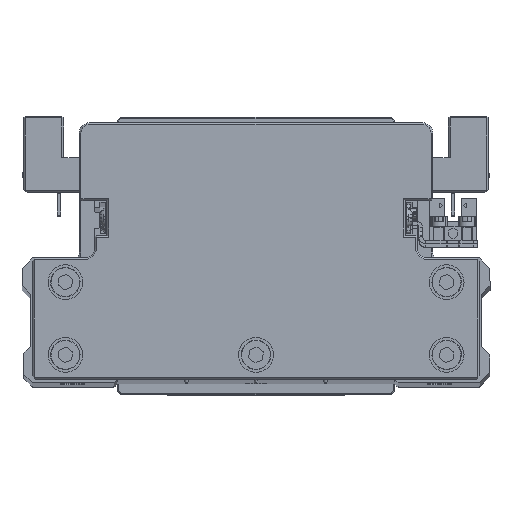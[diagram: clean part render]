
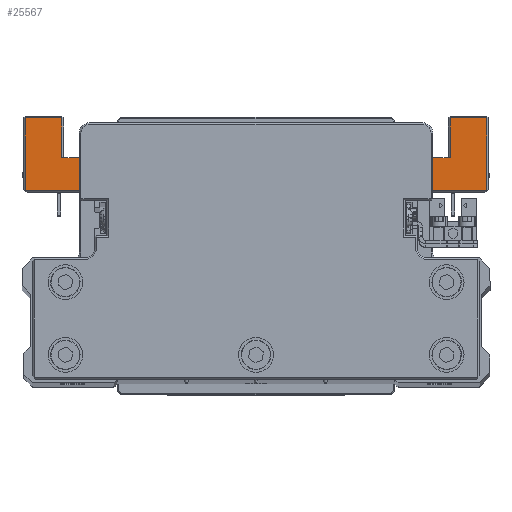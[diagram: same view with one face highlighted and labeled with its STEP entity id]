
A CAD part, top view. The second image highlights one B-rep face of the part: STEP entity #25567.
In plain terms, the highlighted planar face has unit normal (0, 0, 1) as drawn and (0, -1, 0) by its records, which use the part's own axes.
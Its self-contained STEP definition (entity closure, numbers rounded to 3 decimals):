
#4 = ORIENTED_EDGE ( 'NONE', *, *, #6267, .T. ) ;
#230 = DIRECTION ( 'NONE',  ( -1., 0., 0. ) ) ;
#551 = LINE ( 'NONE', #12975, #1478 ) ;
#621 = VERTEX_POINT ( 'NONE', #4445 ) ;
#936 = VECTOR ( 'NONE', #15788, 1000. ) ;
#1387 = VERTEX_POINT ( 'NONE', #25655 ) ;
#1478 = VECTOR ( 'NONE', #25362, 1000. ) ;
#1688 = LINE ( 'NONE', #14103, #29400 ) ;
#2022 = CARTESIAN_POINT ( 'NONE',  ( 40.066, -45., -43. ) ) ;
#2106 = LINE ( 'NONE', #14526, #4726 ) ;
#3221 = ORIENTED_EDGE ( 'NONE', *, *, #24517, .T. ) ;
#3362 = CARTESIAN_POINT ( 'NONE',  ( -55.5, -45., -64. ) ) ;
#4234 = ORIENTED_EDGE ( 'NONE', *, *, #11044, .T. ) ;
#4445 = CARTESIAN_POINT ( 'NONE',  ( 56., -45., -52.5 ) ) ;
#4621 = DIRECTION ( 'NONE',  ( 0., 0., -1. ) ) ;
#4726 = VECTOR ( 'NONE', #26925, 1000. ) ;
#5712 = VERTEX_POINT ( 'NONE', #7754 ) ;
#5956 = EDGE_CURVE ( 'NONE', #25878, #19091, #12401, .T. ) ;
#6267 = EDGE_CURVE ( 'NONE', #5712, #31681, #8110, .T. ) ;
#6564 = DIRECTION ( 'NONE',  ( 0., 0., -1. ) ) ;
#6603 = DIRECTION ( 'NONE',  ( 0., 0., 1. ) ) ;
#7169 = LINE ( 'NONE', #19586, #28403 ) ;
#7283 = VECTOR ( 'NONE', #35590, 1000. ) ;
#7305 = CARTESIAN_POINT ( 'NONE',  ( 40.066, -45., -43. ) ) ;
#7663 = CARTESIAN_POINT ( 'NONE',  ( 67., -45., -64. ) ) ;
#7738 = ORIENTED_EDGE ( 'NONE', *, *, #14162, .F. ) ;
#7754 = CARTESIAN_POINT ( 'NONE',  ( -66.5, -45., -43. ) ) ;
#8110 = LINE ( 'NONE', #20537, #25954 ) ;
#8908 = DIRECTION ( 'NONE',  ( 0., 0., -1. ) ) ;
#9063 = EDGE_CURVE ( 'NONE', #26519, #1387, #551, .T. ) ;
#9219 = VECTOR ( 'NONE', #6603, 1000. ) ;
#9563 = VECTOR ( 'NONE', #6564, 1000. ) ;
#9773 = ORIENTED_EDGE ( 'NONE', *, *, #12141, .F. ) ;
#9975 = ORIENTED_EDGE ( 'NONE', *, *, #9063, .T. ) ;
#10073 = CARTESIAN_POINT ( 'NONE',  ( -77.786, -45., -42.5 ) ) ;
#10697 = EDGE_LOOP ( 'NONE', ( #31643, #14837, #26114, #4234, #4, #22827, #29856, #39708, #9773, #39947, #24893, #7738, #25302, #35503, #3221, #26913, #20508, #9975 ) ) ;
#10785 = LINE ( 'NONE', #23198, #7283 ) ;
#11044 = EDGE_CURVE ( 'NONE', #34075, #5712, #14324, .T. ) ;
#11271 = DIRECTION ( 'NONE',  ( 0., 0., -1. ) ) ;
#11973 = PLANE ( 'NONE',  #34548 ) ;
#12041 = VERTEX_POINT ( 'NONE', #27581 ) ;
#12141 = EDGE_CURVE ( 'NONE', #32732, #36751, #22073, .T. ) ;
#12401 = LINE ( 'NONE', #24792, #23356 ) ;
#12529 = AXIS2_PLACEMENT_3D ( 'NONE', #13889, #26293, #38709 ) ;
#12659 = VECTOR ( 'NONE', #39139, 1000. ) ;
#12703 = EDGE_CURVE ( 'NONE', #32732, #39834, #1688, .T. ) ;
#12933 = CARTESIAN_POINT ( 'NONE',  ( -40.066, -45., -43. ) ) ;
#12975 = CARTESIAN_POINT ( 'NONE',  ( 25.802, -45., -41.111 ) ) ;
#13038 = VECTOR ( 'NONE', #230, 1000. ) ;
#13071 = CARTESIAN_POINT ( 'NONE',  ( -46., -45., -54. ) ) ;
#13889 = CARTESIAN_POINT ( 'NONE',  ( -40.066, -45., -41.5 ) ) ;
#13917 = CARTESIAN_POINT ( 'NONE',  ( -39.868, -45., -42.987 ) ) ;
#14103 = CARTESIAN_POINT ( 'NONE',  ( 46., -45., -54. ) ) ;
#14162 = EDGE_CURVE ( 'NONE', #621, #35712, #15701, .T. ) ;
#14324 = LINE ( 'NONE', #26721, #12659 ) ;
#14418 = CARTESIAN_POINT ( 'NONE',  ( 66.5, -45., -43. ) ) ;
#14526 = CARTESIAN_POINT ( 'NONE',  ( 66.5, -45., -43.5 ) ) ;
#14837 = ORIENTED_EDGE ( 'NONE', *, *, #38820, .T. ) ;
#15223 = CIRCLE ( 'NONE', #37949, 1.5 ) ;
#15701 = LINE ( 'NONE', #28086, #13038 ) ;
#15788 = DIRECTION ( 'NONE',  ( 1., 0., 0. ) ) ;
#19091 = VERTEX_POINT ( 'NONE', #22246 ) ;
#19586 = CARTESIAN_POINT ( 'NONE',  ( -39.868, -45., -42.987 ) ) ;
#19732 = DIRECTION ( 'NONE',  ( -1., 0., 0. ) ) ;
#20085 = DIRECTION ( 'NONE',  ( 1., 0., 0. ) ) ;
#20096 = CARTESIAN_POINT ( 'NONE',  ( 40.066, -45., -41.5 ) ) ;
#20508 = ORIENTED_EDGE ( 'NONE', *, *, #35453, .T. ) ;
#20517 = VERTEX_POINT ( 'NONE', #13917 ) ;
#20537 = CARTESIAN_POINT ( 'NONE',  ( -66.5, -45., -64.5 ) ) ;
#21026 = CARTESIAN_POINT ( 'NONE',  ( -56., -45., -64. ) ) ;
#22041 = LINE ( 'NONE', #34433, #9563 ) ;
#22073 = LINE ( 'NONE', #34467, #9219 ) ;
#22246 = CARTESIAN_POINT ( 'NONE',  ( -56., -45., -52.5 ) ) ;
#22491 = DIRECTION ( 'NONE',  ( -1., 0., 0. ) ) ;
#22827 = ORIENTED_EDGE ( 'NONE', *, *, #34034, .T. ) ;
#23198 = CARTESIAN_POINT ( 'NONE',  ( -55.5, -45., -52.5 ) ) ;
#23356 = VECTOR ( 'NONE', #37216, 1000. ) ;
#24381 = CARTESIAN_POINT ( 'NONE',  ( 0., -45., 0. ) ) ;
#24425 = CARTESIAN_POINT ( 'NONE',  ( -66.5, -45., -64. ) ) ;
#24510 = EDGE_CURVE ( 'NONE', #621, #12041, #26712, .T. ) ;
#24517 = EDGE_CURVE ( 'NONE', #37444, #27931, #2106, .T. ) ;
#24792 = CARTESIAN_POINT ( 'NONE',  ( -56., -45., -52.5 ) ) ;
#24893 = ORIENTED_EDGE ( 'NONE', *, *, #38737, .F. ) ;
#25128 = CARTESIAN_POINT ( 'NONE',  ( 46., -45., -52.5 ) ) ;
#25302 = ORIENTED_EDGE ( 'NONE', *, *, #24510, .T. ) ;
#25362 = DIRECTION ( 'NONE',  ( -0.991, 0., 0.132 ) ) ;
#25567 = ADVANCED_FACE ( 'NONE', ( #39836 ), #11973, .T. ) ;
#25655 = CARTESIAN_POINT ( 'NONE',  ( 36.217, -45., -42.5 ) ) ;
#25878 = VERTEX_POINT ( 'NONE', #21026 ) ;
#25954 = VECTOR ( 'NONE', #32925, 1000. ) ;
#26114 = ORIENTED_EDGE ( 'NONE', *, *, #26316, .T. ) ;
#26293 = DIRECTION ( 'NONE',  ( 0., 1., 0. ) ) ;
#26316 = EDGE_CURVE ( 'NONE', #20517, #34075, #30048, .T. ) ;
#26489 = DIRECTION ( 'NONE',  ( 1., 0., 0. ) ) ;
#26519 = VERTEX_POINT ( 'NONE', #29619 ) ;
#26712 = LINE ( 'NONE', #39132, #34583 ) ;
#26721 = CARTESIAN_POINT ( 'NONE',  ( -66., -45., -43. ) ) ;
#26775 = VECTOR ( 'NONE', #19732, 1000. ) ;
#26913 = ORIENTED_EDGE ( 'NONE', *, *, #31895, .T. ) ;
#26925 = DIRECTION ( 'NONE',  ( 0., 0., 1. ) ) ;
#27581 = CARTESIAN_POINT ( 'NONE',  ( 56., -45., -64. ) ) ;
#27931 = VERTEX_POINT ( 'NONE', #14418 ) ;
#28086 = CARTESIAN_POINT ( 'NONE',  ( 55.5, -45., -52.5 ) ) ;
#28389 = VECTOR ( 'NONE', #20085, 1000. ) ;
#28403 = VECTOR ( 'NONE', #31987, 1000. ) ;
#29086 = CARTESIAN_POINT ( 'NONE',  ( 46., -45., -54. ) ) ;
#29400 = VECTOR ( 'NONE', #26489, 1000. ) ;
#29619 = CARTESIAN_POINT ( 'NONE',  ( 39.868, -45., -42.987 ) ) ;
#29642 = CARTESIAN_POINT ( 'NONE',  ( -46., -45., -52.5 ) ) ;
#29856 = ORIENTED_EDGE ( 'NONE', *, *, #5956, .T. ) ;
#30048 = CIRCLE ( 'NONE', #12529, 1.5 ) ;
#30562 = EDGE_CURVE ( 'NONE', #12041, #37444, #35535, .T. ) ;
#31212 = LINE ( 'NONE', #3362, #936 ) ;
#31643 = ORIENTED_EDGE ( 'NONE', *, *, #35758, .T. ) ;
#31681 = VERTEX_POINT ( 'NONE', #24425 ) ;
#31895 = EDGE_CURVE ( 'NONE', #27931, #35032, #35162, .T. ) ;
#31987 = DIRECTION ( 'NONE',  ( -0.991, 0., -0.132 ) ) ;
#31989 = EDGE_CURVE ( 'NONE', #36751, #19091, #10785, .T. ) ;
#32478 = DIRECTION ( 'NONE',  ( 0., 1., 0. ) ) ;
#32644 = CARTESIAN_POINT ( 'NONE',  ( -36.217, -45., -42.5 ) ) ;
#32732 = VERTEX_POINT ( 'NONE', #13071 ) ;
#32925 = DIRECTION ( 'NONE',  ( 0., 0., -1. ) ) ;
#34034 = EDGE_CURVE ( 'NONE', #31681, #25878, #31212, .T. ) ;
#34075 = VERTEX_POINT ( 'NONE', #12933 ) ;
#34433 = CARTESIAN_POINT ( 'NONE',  ( 46., -45., -52.5 ) ) ;
#34467 = CARTESIAN_POINT ( 'NONE',  ( -46., -45., -52.5 ) ) ;
#34548 = AXIS2_PLACEMENT_3D ( 'NONE', #24381, #36784, #8908 ) ;
#34583 = VECTOR ( 'NONE', #11271, 1000. ) ;
#34720 = VECTOR ( 'NONE', #22491, 1000. ) ;
#35032 = VERTEX_POINT ( 'NONE', #2022 ) ;
#35162 = LINE ( 'NONE', #7305, #26775 ) ;
#35453 = EDGE_CURVE ( 'NONE', #35032, #26519, #15223, .T. ) ;
#35503 = ORIENTED_EDGE ( 'NONE', *, *, #30562, .T. ) ;
#35535 = LINE ( 'NONE', #7663, #28389 ) ;
#35590 = DIRECTION ( 'NONE',  ( -1., 0., 0. ) ) ;
#35712 = VERTEX_POINT ( 'NONE', #25128 ) ;
#35758 = EDGE_CURVE ( 'NONE', #1387, #35890, #37938, .T. ) ;
#35890 = VERTEX_POINT ( 'NONE', #32644 ) ;
#36751 = VERTEX_POINT ( 'NONE', #29642 ) ;
#36784 = DIRECTION ( 'NONE',  ( 0., -1., 0. ) ) ;
#37216 = DIRECTION ( 'NONE',  ( 0., 0., 1. ) ) ;
#37444 = VERTEX_POINT ( 'NONE', #37493 ) ;
#37493 = CARTESIAN_POINT ( 'NONE',  ( 66.5, -45., -64. ) ) ;
#37938 = LINE ( 'NONE', #10073, #34720 ) ;
#37949 = AXIS2_PLACEMENT_3D ( 'NONE', #20096, #32478, #4621 ) ;
#38709 = DIRECTION ( 'NONE',  ( 0., 0., -1. ) ) ;
#38737 = EDGE_CURVE ( 'NONE', #35712, #39834, #22041, .T. ) ;
#38820 = EDGE_CURVE ( 'NONE', #35890, #20517, #7169, .T. ) ;
#39132 = CARTESIAN_POINT ( 'NONE',  ( 56., -45., -64.5 ) ) ;
#39139 = DIRECTION ( 'NONE',  ( -1., 0., 0. ) ) ;
#39708 = ORIENTED_EDGE ( 'NONE', *, *, #31989, .F. ) ;
#39834 = VERTEX_POINT ( 'NONE', #29086 ) ;
#39836 = FACE_OUTER_BOUND ( 'NONE', #10697, .T. ) ;
#39947 = ORIENTED_EDGE ( 'NONE', *, *, #12703, .T. ) ;
